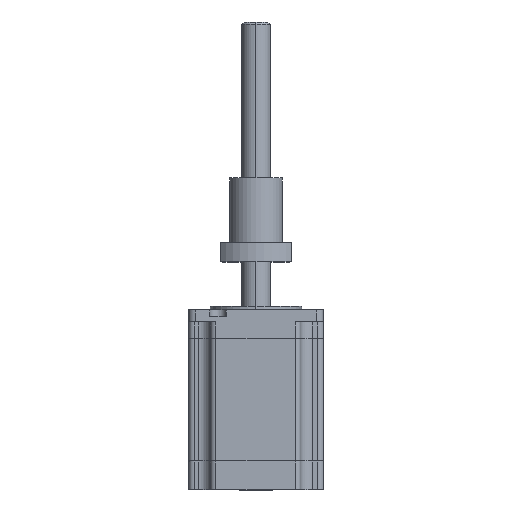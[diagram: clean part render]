
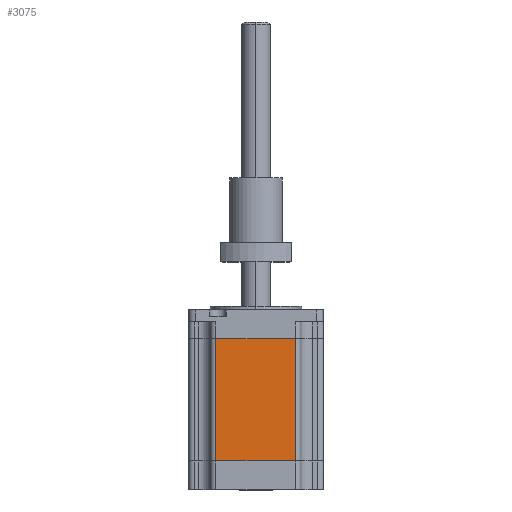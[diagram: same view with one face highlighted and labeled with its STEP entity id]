
A CAD part, top view. The second image highlights one B-rep face of the part: STEP entity #3075.
In plain terms, the highlighted planar face has unit normal (0, 0, 1).
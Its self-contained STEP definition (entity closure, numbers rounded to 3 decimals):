
#304 = CARTESIAN_POINT ( 'NONE',  ( 25.1, -7.001, 28.1 ) ) ;
#497 = VECTOR ( 'NONE', #1726, 1000. ) ;
#544 = VERTEX_POINT ( 'NONE', #6031 ) ;
#595 = CARTESIAN_POINT ( 'NONE',  ( 25.1, -57.99, 28.1 ) ) ;
#823 = ORIENTED_EDGE ( 'NONE', *, *, #939, .T. ) ;
#939 = EDGE_CURVE ( 'NONE', #6843, #4225, #958, .T. ) ;
#958 = LINE ( 'NONE', #2149, #3663 ) ;
#1099 = VECTOR ( 'NONE', #6811, 1000. ) ;
#1303 = VERTEX_POINT ( 'NONE', #4458 ) ;
#1726 = DIRECTION ( 'NONE',  ( -1., 0., 0. ) ) ;
#1940 = ORIENTED_EDGE ( 'NONE', *, *, #2136, .F. ) ;
#1955 = CARTESIAN_POINT ( 'NONE',  ( -16.7, -70., 28.1 ) ) ;
#2025 = LINE ( 'NONE', #595, #497 ) ;
#2031 = DIRECTION ( 'NONE',  ( 0., 0., -1. ) ) ;
#2136 = EDGE_CURVE ( 'NONE', #6843, #544, #2025, .T. ) ;
#2149 = CARTESIAN_POINT ( 'NONE',  ( 16.3, -70., 28.1 ) ) ;
#2554 = EDGE_CURVE ( 'NONE', #1303, #4225, #3375, .T. ) ;
#2624 = DIRECTION ( 'NONE',  ( -1., 0., 0. ) ) ;
#3075 = ADVANCED_FACE ( 'NONE', ( #3284 ), #3606, .F. ) ;
#3202 = CARTESIAN_POINT ( 'NONE',  ( 16.3, -7.001, 28.1 ) ) ;
#3284 = FACE_OUTER_BOUND ( 'NONE', #6915, .T. ) ;
#3352 = ORIENTED_EDGE ( 'NONE', *, *, #2554, .F. ) ;
#3375 = LINE ( 'NONE', #304, #1099 ) ;
#3606 = PLANE ( 'NONE',  #4280 ) ;
#3617 = ORIENTED_EDGE ( 'NONE', *, *, #6497, .F. ) ;
#3650 = CARTESIAN_POINT ( 'NONE',  ( 16.3, -57.99, 28.1 ) ) ;
#3663 = VECTOR ( 'NONE', #4862, 1000. ) ;
#4122 = DIRECTION ( 'NONE',  ( 0., 1., 0. ) ) ;
#4225 = VERTEX_POINT ( 'NONE', #3202 ) ;
#4280 = AXIS2_PLACEMENT_3D ( 'NONE', #5265, #2031, #2624 ) ;
#4458 = CARTESIAN_POINT ( 'NONE',  ( -16.7, -7.001, 28.1 ) ) ;
#4862 = DIRECTION ( 'NONE',  ( 0., 1., 0. ) ) ;
#5181 = VECTOR ( 'NONE', #4122, 1000. ) ;
#5265 = CARTESIAN_POINT ( 'NONE',  ( 25.1, 5., 28.1 ) ) ;
#6031 = CARTESIAN_POINT ( 'NONE',  ( -16.7, -57.99, 28.1 ) ) ;
#6196 = LINE ( 'NONE', #1955, #5181 ) ;
#6497 = EDGE_CURVE ( 'NONE', #544, #1303, #6196, .T. ) ;
#6811 = DIRECTION ( 'NONE',  ( 1., 0., 0. ) ) ;
#6843 = VERTEX_POINT ( 'NONE', #3650 ) ;
#6915 = EDGE_LOOP ( 'NONE', ( #1940, #823, #3352, #3617 ) ) ;
